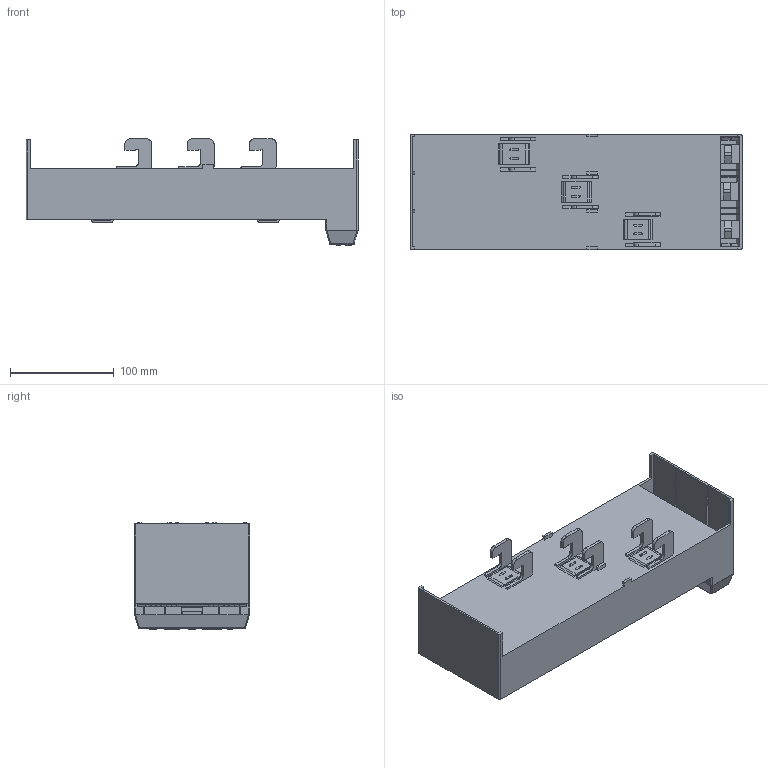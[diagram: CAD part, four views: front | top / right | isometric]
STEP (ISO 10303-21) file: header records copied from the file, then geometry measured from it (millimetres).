
FILE_DESCRIPTION (( 'STEP AP203' ), '1' );
FILE_NAME ('55168.STEP', '2021-08-25T00:40:20', ( '' ), ( '' ), 'SwSTEP 2.0', 'SolidWorks 2017', '' );
FILE_SCHEMA (( 'CONFIG_CONTROL_DESIGN' ));
Products named in the file (2): 55168
Bounding box: 320 x 111 x 102.5 mm (x, y, z)
Surface area: 214393.6 mm2 (no closed solid volume)
Topology: 0 solids, 4 shells, 2554 faces, 7415 edges, 4905 vertices
Faces by surface type: plane 2330, cylinder 214, bspline 8, cone 2
Full cylindrical faces by diameter (mm): 3.2 x4, 7 x3, 8.5 x2, 11 x3, 13 x3, 13.2 x1
Entity records: 85821 total; most frequent: CARTESIAN_POINT 19071, ORIENTED_EDGE 14776, DIRECTION 12287, EDGE_CURVE 7389, VECTOR 6375, LINE 6375, VERTEX_POINT 4905, AXIS2_PLACEMENT_3D 2956
